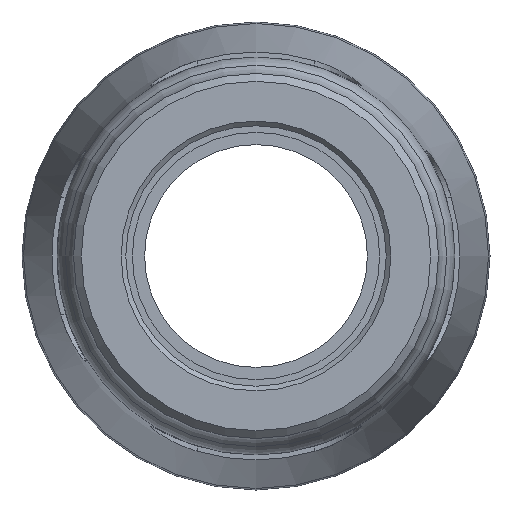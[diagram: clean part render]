
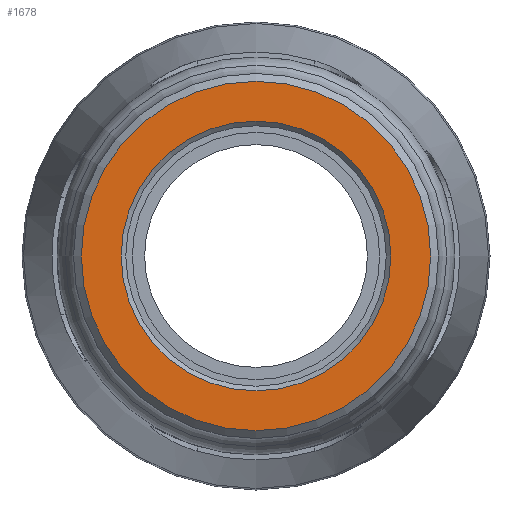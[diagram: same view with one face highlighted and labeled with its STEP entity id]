
A CAD part, left-side view. The second image highlights one B-rep face of the part: STEP entity #1678.
In plain terms, the highlighted planar face has unit normal (-1, 0, 0).
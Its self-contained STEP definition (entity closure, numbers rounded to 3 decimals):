
#23=FACE_BOUND('',#400,.T.);
#55=PLANE('',#1829);
#291=FACE_OUTER_BOUND('',#399,.T.);
#399=EDGE_LOOP('',(#1155));
#400=EDGE_LOOP('',(#1156));
#543=CIRCLE('',#1828,20.176);
#544=CIRCLE('',#1830,26.131);
#714=VERTEX_POINT('',#2896);
#715=VERTEX_POINT('',#2899);
#885=EDGE_CURVE('',#714,#714,#543,.T.);
#886=EDGE_CURVE('',#715,#715,#544,.T.);
#1155=ORIENTED_EDGE('',*,*,#886,.F.);
#1156=ORIENTED_EDGE('',*,*,#885,.F.);
#1678=ADVANCED_FACE('',(#291,#23),#55,.T.);
#1828=AXIS2_PLACEMENT_3D('',#2897,#2109,#2110);
#1829=AXIS2_PLACEMENT_3D('',#2898,#2111,#2112);
#1830=AXIS2_PLACEMENT_3D('',#2900,#2113,#2114);
#2109=DIRECTION('center_axis',(-1.,0.,0.));
#2110=DIRECTION('ref_axis',(0.,-1.,0.));
#2111=DIRECTION('center_axis',(-1.,0.,0.));
#2112=DIRECTION('ref_axis',(0.,0.,1.));
#2113=DIRECTION('center_axis',(1.,0.,0.));
#2114=DIRECTION('ref_axis',(0.,-1.,0.));
#2896=CARTESIAN_POINT('',(0.,20.176,0.));
#2897=CARTESIAN_POINT('Origin',(0.,0.,0.));
#2898=CARTESIAN_POINT('Origin',(0.,27.3,0.));
#2899=CARTESIAN_POINT('',(0.,26.131,0.));
#2900=CARTESIAN_POINT('Origin',(0.,0.,0.));
